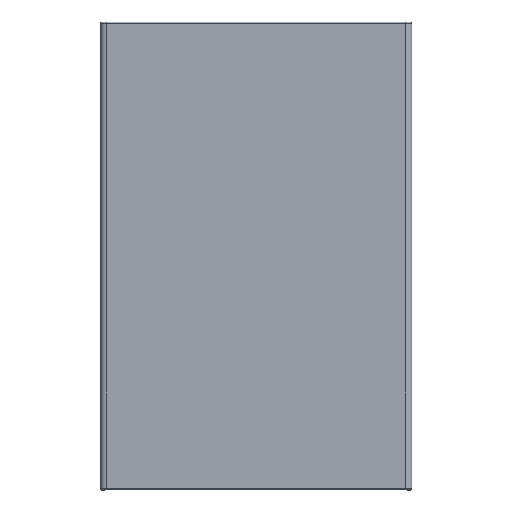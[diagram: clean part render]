
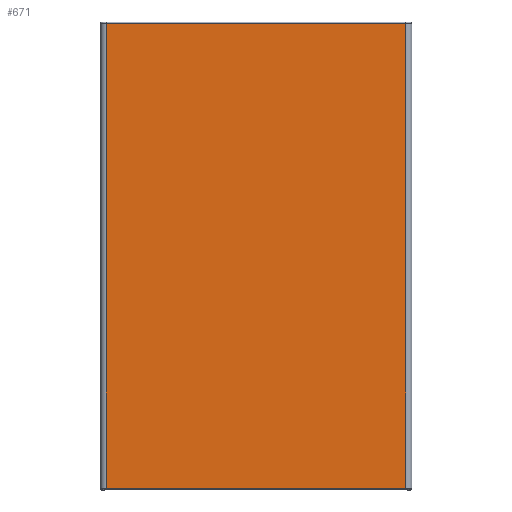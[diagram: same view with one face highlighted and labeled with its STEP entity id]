
A CAD part, top view. The second image highlights one B-rep face of the part: STEP entity #671.
In plain terms, the highlighted planar face has unit normal (0, 0, 1).
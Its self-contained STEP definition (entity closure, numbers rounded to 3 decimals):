
#27 = LINE ( 'NONE', #1034, #414 ) ;
#34 = EDGE_CURVE ( 'NONE', #521, #895, #171, .T. ) ;
#58 = EDGE_CURVE ( 'NONE', #261, #858, #183, .T. ) ;
#95 = CARTESIAN_POINT ( 'NONE',  ( 96., 1., 0. ) ) ;
#107 = VECTOR ( 'NONE', #909, 1000. ) ;
#157 = LINE ( 'NONE', #592, #107 ) ;
#171 = LINE ( 'NONE', #95, #804 ) ;
#183 = LINE ( 'NONE', #919, #818 ) ;
#214 = DIRECTION ( 'NONE',  ( 0., 1., 0. ) ) ;
#234 = ORIENTED_EDGE ( 'NONE', *, *, #58, .T. ) ;
#235 = ORIENTED_EDGE ( 'NONE', *, *, #34, .T. ) ;
#261 = VERTEX_POINT ( 'NONE', #1028 ) ;
#323 = CARTESIAN_POINT ( 'NONE',  ( -96., 1., 0. ) ) ;
#340 = DIRECTION ( 'NONE',  ( 0., 0., -1. ) ) ;
#414 = VECTOR ( 'NONE', #214, 1000. ) ;
#422 = ORIENTED_EDGE ( 'NONE', *, *, #638, .T. ) ;
#460 = EDGE_CURVE ( 'NONE', #895, #261, #27, .T. ) ;
#478 = AXIS2_PLACEMENT_3D ( 'NONE', #836, #340, #911 ) ;
#497 = DIRECTION ( 'NONE',  ( 1., 0., 0. ) ) ;
#499 = PLANE ( 'NONE',  #478 ) ;
#521 = VERTEX_POINT ( 'NONE', #323 ) ;
#592 = CARTESIAN_POINT ( 'NONE',  ( -96., 300., 0. ) ) ;
#638 = EDGE_CURVE ( 'NONE', #858, #521, #157, .T. ) ;
#671 = ADVANCED_FACE ( 'NONE', ( #765 ), #499, .F. ) ;
#682 = EDGE_LOOP ( 'NONE', ( #422, #235, #1012, #234 ) ) ;
#765 = FACE_OUTER_BOUND ( 'NONE', #682, .T. ) ;
#804 = VECTOR ( 'NONE', #497, 1000. ) ;
#818 = VECTOR ( 'NONE', #977, 1000. ) ;
#836 = CARTESIAN_POINT ( 'NONE',  ( -100., 300., 0. ) ) ;
#858 = VERTEX_POINT ( 'NONE', #874 ) ;
#874 = CARTESIAN_POINT ( 'NONE',  ( -96., 299., 0. ) ) ;
#895 = VERTEX_POINT ( 'NONE', #1029 ) ;
#909 = DIRECTION ( 'NONE',  ( 0., -1., 0. ) ) ;
#911 = DIRECTION ( 'NONE',  ( -1., 0., 0. ) ) ;
#919 = CARTESIAN_POINT ( 'NONE',  ( -100., 299., 0. ) ) ;
#977 = DIRECTION ( 'NONE',  ( -1., 0., 0. ) ) ;
#1012 = ORIENTED_EDGE ( 'NONE', *, *, #460, .T. ) ;
#1028 = CARTESIAN_POINT ( 'NONE',  ( 96., 299., 0. ) ) ;
#1029 = CARTESIAN_POINT ( 'NONE',  ( 96., 1., 0. ) ) ;
#1034 = CARTESIAN_POINT ( 'NONE',  ( 96., 300., 0. ) ) ;
